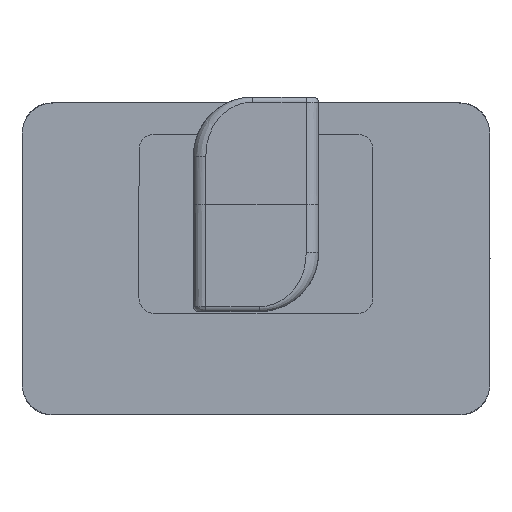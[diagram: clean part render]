
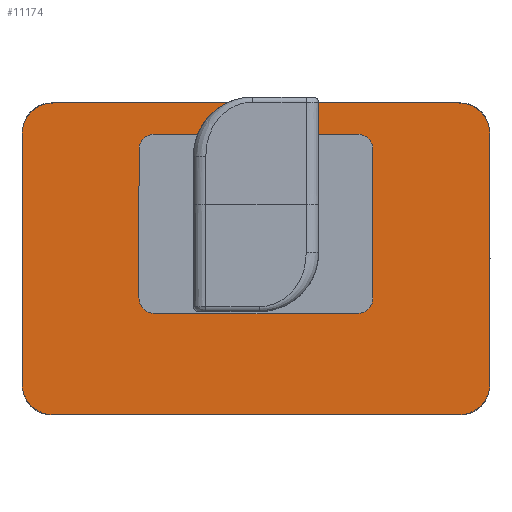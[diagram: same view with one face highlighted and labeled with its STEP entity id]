
A CAD part, left-side view. The second image highlights one B-rep face of the part: STEP entity #11174.
In plain terms, the highlighted planar face has unit normal (-1, 0, 0).
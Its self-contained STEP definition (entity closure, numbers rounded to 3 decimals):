
#26 = CIRCLE ( 'NONE', #5426, 2. ) ;
#239 = VERTEX_POINT ( 'NONE', #4552 ) ;
#309 = ORIENTED_EDGE ( 'NONE', *, *, #8326, .F. ) ;
#370 = CARTESIAN_POINT ( 'NONE',  ( -2., 6.5, -2.5 ) ) ;
#380 = VERTEX_POINT ( 'NONE', #7557 ) ;
#436 = ORIENTED_EDGE ( 'NONE', *, *, #1588, .F. ) ;
#687 = CIRCLE ( 'NONE', #10519, 1. ) ;
#791 = CARTESIAN_POINT ( 'NONE',  ( -2., -6.5, -2.5 ) ) ;
#836 = ORIENTED_EDGE ( 'NONE', *, *, #7103, .F. ) ;
#1114 = ORIENTED_EDGE ( 'NONE', *, *, #2343, .T. ) ;
#1124 = DIRECTION ( 'NONE',  ( 0., 0., 1. ) ) ;
#1244 = CARTESIAN_POINT ( 'NONE',  ( -2., 7.5, 7. ) ) ;
#1253 = VERTEX_POINT ( 'NONE', #5805 ) ;
#1363 = CARTESIAN_POINT ( 'NONE',  ( -2., -13., 10. ) ) ;
#1398 = CARTESIAN_POINT ( 'NONE',  ( -2., -6.5, -3.5 ) ) ;
#1427 = CARTESIAN_POINT ( 'NONE',  ( -2., -6.5, -3.5 ) ) ;
#1429 = DIRECTION ( 'NONE',  ( 0., 0., 1. ) ) ;
#1480 = FACE_OUTER_BOUND ( 'NONE', #9521, .T. ) ;
#1588 = EDGE_CURVE ( 'NONE', #1923, #380, #26, .T. ) ;
#1612 = CIRCLE ( 'NONE', #8844, 1. ) ;
#1663 = ORIENTED_EDGE ( 'NONE', *, *, #11060, .T. ) ;
#1726 = EDGE_CURVE ( 'NONE', #7639, #3199, #4176, .T. ) ;
#1765 = ORIENTED_EDGE ( 'NONE', *, *, #6019, .T. ) ;
#1814 = DIRECTION ( 'NONE',  ( 1., 0., 0. ) ) ;
#1871 = CIRCLE ( 'NONE', #4491, 2. ) ;
#1922 = DIRECTION ( 'NONE',  ( 1., 0., 0. ) ) ;
#1923 = VERTEX_POINT ( 'NONE', #8053 ) ;
#1992 = CARTESIAN_POINT ( 'NONE',  ( -2., -6.5, 8. ) ) ;
#2026 = VECTOR ( 'NONE', #3565, 1000. ) ;
#2072 = AXIS2_PLACEMENT_3D ( 'NONE', #9734, #1814, #1124 ) ;
#2120 = CARTESIAN_POINT ( 'NONE',  ( -2., 13., 8. ) ) ;
#2125 = LINE ( 'NONE', #9026, #12109 ) ;
#2224 = CARTESIAN_POINT ( 'NONE',  ( -2., 13., 10. ) ) ;
#2343 = EDGE_CURVE ( 'NONE', #4618, #1253, #7335, .T. ) ;
#2410 = ORIENTED_EDGE ( 'NONE', *, *, #6869, .F. ) ;
#2489 = VECTOR ( 'NONE', #3999, 1000. ) ;
#2723 = CARTESIAN_POINT ( 'NONE',  ( -2., -7.5, 7. ) ) ;
#2792 = EDGE_CURVE ( 'NONE', #6887, #3944, #10873, .T. ) ;
#2829 = LINE ( 'NONE', #6915, #3789 ) ;
#2847 = EDGE_LOOP ( 'NONE', ( #4508, #6245, #6524, #10982, #1765, #1114, #1663, #11800 ) ) ;
#2998 = LINE ( 'NONE', #1992, #7626 ) ;
#3131 = CARTESIAN_POINT ( 'NONE',  ( -2., 7.5, -2.5 ) ) ;
#3199 = VERTEX_POINT ( 'NONE', #6464 ) ;
#3337 = EDGE_CURVE ( 'NONE', #11802, #5386, #2998, .T. ) ;
#3438 = CARTESIAN_POINT ( 'NONE',  ( -2., -13., -8. ) ) ;
#3492 = PLANE ( 'NONE',  #7722 ) ;
#3565 = DIRECTION ( 'NONE',  ( 0., 1., 0. ) ) ;
#3684 = DIRECTION ( 'NONE',  ( 0., 0., -1. ) ) ;
#3789 = VECTOR ( 'NONE', #6667, 1000. ) ;
#3803 = DIRECTION ( 'NONE',  ( 0., 0., 1. ) ) ;
#3805 = EDGE_CURVE ( 'NONE', #3944, #11802, #10453, .T. ) ;
#3904 = CARTESIAN_POINT ( 'NONE',  ( -2., -15., 8. ) ) ;
#3944 = VERTEX_POINT ( 'NONE', #6985 ) ;
#3999 = DIRECTION ( 'NONE',  ( 0., 0., -1. ) ) ;
#4088 = VECTOR ( 'NONE', #5200, 1000. ) ;
#4176 = LINE ( 'NONE', #7057, #4236 ) ;
#4229 = AXIS2_PLACEMENT_3D ( 'NONE', #8878, #4692, #6044 ) ;
#4236 = VECTOR ( 'NONE', #10907, 1000. ) ;
#4349 = VERTEX_POINT ( 'NONE', #3904 ) ;
#4491 = AXIS2_PLACEMENT_3D ( 'NONE', #10475, #1922, #3803 ) ;
#4508 = ORIENTED_EDGE ( 'NONE', *, *, #3805, .T. ) ;
#4552 = CARTESIAN_POINT ( 'NONE',  ( -2., 15., 8. ) ) ;
#4618 = VERTEX_POINT ( 'NONE', #1398 ) ;
#4635 = DIRECTION ( 'NONE',  ( 1., 0., 0. ) ) ;
#4692 = DIRECTION ( 'NONE',  ( 1., 0., 0. ) ) ;
#4709 = VERTEX_POINT ( 'NONE', #11162 ) ;
#4771 = DIRECTION ( 'NONE',  ( 0., -1., 0. ) ) ;
#4804 = DIRECTION ( 'NONE',  ( 0., 0., 1. ) ) ;
#5200 = DIRECTION ( 'NONE',  ( 0., -1., 0. ) ) ;
#5263 = LINE ( 'NONE', #1363, #4088 ) ;
#5362 = CARTESIAN_POINT ( 'NONE',  ( -2., -13., -10. ) ) ;
#5386 = VERTEX_POINT ( 'NONE', #5396 ) ;
#5396 = CARTESIAN_POINT ( 'NONE',  ( -2., -6.5, 8. ) ) ;
#5426 = AXIS2_PLACEMENT_3D ( 'NONE', #6519, #7460, #4804 ) ;
#5805 = CARTESIAN_POINT ( 'NONE',  ( -2., 6.5, -3.5 ) ) ;
#6019 = EDGE_CURVE ( 'NONE', #3199, #4618, #1612, .T. ) ;
#6044 = DIRECTION ( 'NONE',  ( 0., 0., 1. ) ) ;
#6072 = DIRECTION ( 'NONE',  ( 1., 0., 0. ) ) ;
#6087 = CIRCLE ( 'NONE', #2072, 1. ) ;
#6245 = ORIENTED_EDGE ( 'NONE', *, *, #3337, .T. ) ;
#6272 = EDGE_CURVE ( 'NONE', #8741, #1923, #2829, .T. ) ;
#6464 = CARTESIAN_POINT ( 'NONE',  ( -2., -7.5, -2.5 ) ) ;
#6519 = CARTESIAN_POINT ( 'NONE',  ( -2., 13., -8. ) ) ;
#6524 = ORIENTED_EDGE ( 'NONE', *, *, #6738, .T. ) ;
#6667 = DIRECTION ( 'NONE',  ( 0., 1., 0. ) ) ;
#6738 = EDGE_CURVE ( 'NONE', #5386, #7639, #6087, .T. ) ;
#6763 = CARTESIAN_POINT ( 'NONE',  ( -2., -15., -8. ) ) ;
#6869 = EDGE_CURVE ( 'NONE', #11424, #12407, #5263, .T. ) ;
#6870 = EDGE_CURVE ( 'NONE', #380, #239, #2125, .T. ) ;
#6887 = VERTEX_POINT ( 'NONE', #3131 ) ;
#6915 = CARTESIAN_POINT ( 'NONE',  ( -2., -13., -10. ) ) ;
#6985 = CARTESIAN_POINT ( 'NONE',  ( -2., 7.5, 7. ) ) ;
#7057 = CARTESIAN_POINT ( 'NONE',  ( -2., -7.5, 7. ) ) ;
#7103 = EDGE_CURVE ( 'NONE', #12407, #4349, #1871, .T. ) ;
#7259 = ORIENTED_EDGE ( 'NONE', *, *, #6870, .F. ) ;
#7298 = CIRCLE ( 'NONE', #11525, 2. ) ;
#7335 = LINE ( 'NONE', #1427, #2026 ) ;
#7460 = DIRECTION ( 'NONE',  ( 1., 0., 0. ) ) ;
#7557 = CARTESIAN_POINT ( 'NONE',  ( -2., 15., -8. ) ) ;
#7626 = VECTOR ( 'NONE', #4771, 1000. ) ;
#7639 = VERTEX_POINT ( 'NONE', #2723 ) ;
#7722 = AXIS2_PLACEMENT_3D ( 'NONE', #8273, #10098, #12103 ) ;
#7977 = DIRECTION ( 'NONE',  ( 0., 0., 1. ) ) ;
#8053 = CARTESIAN_POINT ( 'NONE',  ( -2., 13., -10. ) ) ;
#8158 = ORIENTED_EDGE ( 'NONE', *, *, #11040, .F. ) ;
#8224 = CARTESIAN_POINT ( 'NONE',  ( -2., 6.5, 8. ) ) ;
#8273 = CARTESIAN_POINT ( 'NONE',  ( -2., 13., 8. ) ) ;
#8326 = EDGE_CURVE ( 'NONE', #4349, #4709, #11611, .T. ) ;
#8741 = VERTEX_POINT ( 'NONE', #5362 ) ;
#8844 = AXIS2_PLACEMENT_3D ( 'NONE', #791, #4635, #3684 ) ;
#8878 = CARTESIAN_POINT ( 'NONE',  ( -2., 6.5, 7. ) ) ;
#8934 = CIRCLE ( 'NONE', #9935, 2. ) ;
#8973 = ORIENTED_EDGE ( 'NONE', *, *, #9414, .F. ) ;
#9026 = CARTESIAN_POINT ( 'NONE',  ( -2., 15., -8. ) ) ;
#9156 = DIRECTION ( 'NONE',  ( 1., 0., 0. ) ) ;
#9414 = EDGE_CURVE ( 'NONE', #4709, #8741, #8934, .T. ) ;
#9521 = EDGE_LOOP ( 'NONE', ( #8158, #7259, #436, #10132, #8973, #309, #836, #2410 ) ) ;
#9734 = CARTESIAN_POINT ( 'NONE',  ( -2., -6.5, 7. ) ) ;
#9783 = DIRECTION ( 'NONE',  ( 0., 0., 1. ) ) ;
#9786 = DIRECTION ( 'NONE',  ( 0., 0., 1. ) ) ;
#9846 = DIRECTION ( 'NONE',  ( 1., 0., 0. ) ) ;
#9935 = AXIS2_PLACEMENT_3D ( 'NONE', #3438, #9156, #1429 ) ;
#10098 = DIRECTION ( 'NONE',  ( -1., 0., 0. ) ) ;
#10132 = ORIENTED_EDGE ( 'NONE', *, *, #6272, .F. ) ;
#10442 = VECTOR ( 'NONE', #7977, 1000. ) ;
#10453 = CIRCLE ( 'NONE', #4229, 1. ) ;
#10458 = CARTESIAN_POINT ( 'NONE',  ( -2., -13., 10. ) ) ;
#10475 = CARTESIAN_POINT ( 'NONE',  ( -2., -13., 8. ) ) ;
#10519 = AXIS2_PLACEMENT_3D ( 'NONE', #370, #9846, #9783 ) ;
#10745 = FACE_BOUND ( 'NONE', #2847, .T. ) ;
#10873 = LINE ( 'NONE', #1244, #10442 ) ;
#10907 = DIRECTION ( 'NONE',  ( 0., 0., -1. ) ) ;
#10982 = ORIENTED_EDGE ( 'NONE', *, *, #1726, .T. ) ;
#11040 = EDGE_CURVE ( 'NONE', #239, #11424, #7298, .T. ) ;
#11060 = EDGE_CURVE ( 'NONE', #1253, #6887, #687, .T. ) ;
#11162 = CARTESIAN_POINT ( 'NONE',  ( -2., -15., -8. ) ) ;
#11174 = ADVANCED_FACE ( 'NONE', ( #10745, #1480 ), #3492, .T. ) ;
#11424 = VERTEX_POINT ( 'NONE', #2224 ) ;
#11525 = AXIS2_PLACEMENT_3D ( 'NONE', #2120, #6072, #11921 ) ;
#11611 = LINE ( 'NONE', #6763, #2489 ) ;
#11800 = ORIENTED_EDGE ( 'NONE', *, *, #2792, .T. ) ;
#11802 = VERTEX_POINT ( 'NONE', #8224 ) ;
#11921 = DIRECTION ( 'NONE',  ( 0., 0., 1. ) ) ;
#12103 = DIRECTION ( 'NONE',  ( 0., 0., 1. ) ) ;
#12109 = VECTOR ( 'NONE', #9786, 1000. ) ;
#12407 = VERTEX_POINT ( 'NONE', #10458 ) ;
